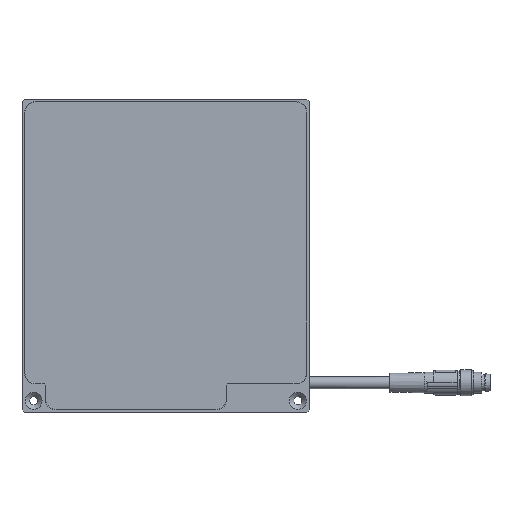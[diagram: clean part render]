
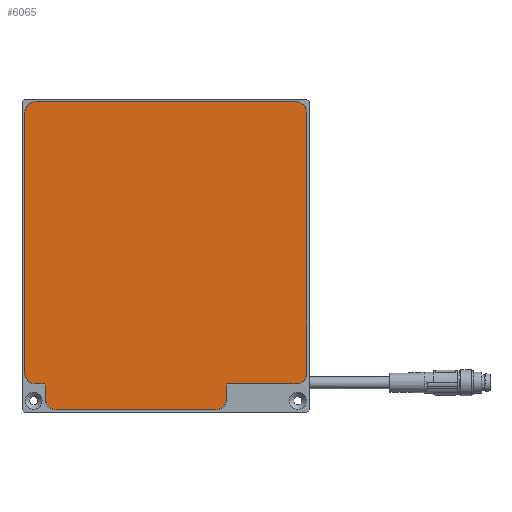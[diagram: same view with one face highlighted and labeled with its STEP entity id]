
A CAD part, top view. The second image highlights one B-rep face of the part: STEP entity #6065.
In plain terms, the highlighted planar face has unit normal (0, 0, 1).
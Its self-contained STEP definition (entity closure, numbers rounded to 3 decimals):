
#171=CIRCLE('',#8767,4.1);
#172=CIRCLE('',#8768,4.1);
#173=CIRCLE('',#8769,4.1);
#174=CIRCLE('',#8770,4.1);
#175=CIRCLE('',#8771,4.1);
#176=CIRCLE('',#8772,4.1);
#373=ORIENTED_EDGE('',*,*,#2121,.F.);
#374=ORIENTED_EDGE('',*,*,#2131,.T.);
#375=ORIENTED_EDGE('',*,*,#2117,.F.);
#376=ORIENTED_EDGE('',*,*,#2132,.T.);
#377=ORIENTED_EDGE('',*,*,#2107,.F.);
#378=ORIENTED_EDGE('',*,*,#2133,.T.);
#379=ORIENTED_EDGE('',*,*,#2106,.F.);
#380=ORIENTED_EDGE('',*,*,#2134,.T.);
#381=ORIENTED_EDGE('',*,*,#2102,.F.);
#382=ORIENTED_EDGE('',*,*,#2135,.T.);
#383=ORIENTED_EDGE('',*,*,#2098,.F.);
#384=ORIENTED_EDGE('',*,*,#2136,.T.);
#385=ORIENTED_EDGE('',*,*,#2130,.F.);
#386=ORIENTED_EDGE('',*,*,#2137,.T.);
#387=ORIENTED_EDGE('',*,*,#2122,.F.);
#388=ORIENTED_EDGE('',*,*,#2138,.T.);
#2098=EDGE_CURVE('',#2979,#2976,#3582,.T.);
#2102=EDGE_CURVE('',#2983,#2980,#3586,.T.);
#2106=EDGE_CURVE('',#2987,#2984,#3590,.T.);
#2107=EDGE_CURVE('',#2988,#2989,#3591,.T.);
#2117=EDGE_CURVE('',#2997,#2994,#3601,.T.);
#2121=EDGE_CURVE('',#3001,#2998,#3605,.T.);
#2122=EDGE_CURVE('',#3002,#3003,#3606,.T.);
#2130=EDGE_CURVE('',#3008,#3006,#3614,.T.);
#2131=EDGE_CURVE('',#3001,#2994,#171,.F.);
#2132=EDGE_CURVE('',#2997,#2989,#3615,.F.);
#2133=EDGE_CURVE('',#2988,#2984,#172,.F.);
#2134=EDGE_CURVE('',#2987,#2980,#173,.F.);
#2135=EDGE_CURVE('',#2983,#2976,#174,.F.);
#2136=EDGE_CURVE('',#2979,#3006,#175,.F.);
#2137=EDGE_CURVE('',#3008,#3003,#3616,.F.);
#2138=EDGE_CURVE('',#3002,#2998,#176,.F.);
#2976=VERTEX_POINT('',#10936);
#2979=VERTEX_POINT('',#10941);
#2980=VERTEX_POINT('',#10945);
#2983=VERTEX_POINT('',#10950);
#2984=VERTEX_POINT('',#10954);
#2987=VERTEX_POINT('',#10959);
#2988=VERTEX_POINT('',#10963);
#2989=VERTEX_POINT('',#10964);
#2994=VERTEX_POINT('',#10976);
#2997=VERTEX_POINT('',#10982);
#2998=VERTEX_POINT('',#10986);
#3001=VERTEX_POINT('',#10991);
#3002=VERTEX_POINT('',#10995);
#3003=VERTEX_POINT('',#10996);
#3006=VERTEX_POINT('',#11005);
#3008=VERTEX_POINT('',#11009);
#3582=LINE('',#10942,#4246);
#3586=LINE('',#10951,#4250);
#3590=LINE('',#10960,#4254);
#3591=LINE('',#10962,#4255);
#3601=LINE('',#10983,#4265);
#3605=LINE('',#10992,#4269);
#3606=LINE('',#10994,#4270);
#3614=LINE('',#11010,#4278);
#3615=LINE('',#11013,#4279);
#3616=LINE('',#11018,#4280);
#4246=VECTOR('',#9270,1000.);
#4250=VECTOR('',#9276,1000.);
#4254=VECTOR('',#9282,1000.);
#4255=VECTOR('',#9285,1000.);
#4265=VECTOR('',#9297,1000.);
#4269=VECTOR('',#9303,1000.);
#4270=VECTOR('',#9306,1000.);
#4278=VECTOR('',#9316,1000.);
#4279=VECTOR('',#9321,1000.);
#4280=VECTOR('',#9330,1000.);
#4913=EDGE_LOOP('',(#373,#374,#375,#376,#377,#378,#379,#380,#381,#382,#383,
#384,#385,#386,#387,#388));
#5359=FACE_BOUND('',#4913,.T.);
#5805=PLANE('',#8766);
#6065=ADVANCED_FACE('',(#5359),#5805,.F.);
#8766=AXIS2_PLACEMENT_3D('',#11011,#9317,#9318);
#8767=AXIS2_PLACEMENT_3D('',#11012,#9319,#9320);
#8768=AXIS2_PLACEMENT_3D('',#11014,#9322,#9323);
#8769=AXIS2_PLACEMENT_3D('',#11015,#9324,#9325);
#8770=AXIS2_PLACEMENT_3D('',#11016,#9326,#9327);
#8771=AXIS2_PLACEMENT_3D('',#11017,#9328,#9329);
#8772=AXIS2_PLACEMENT_3D('',#11019,#9331,#9332);
#9270=DIRECTION('',(0.,1.,0.));
#9276=DIRECTION('',(1.,0.,0.));
#9282=DIRECTION('',(0.,-1.,0.));
#9285=DIRECTION('',(-1.,0.,0.));
#9297=DIRECTION('',(0.,-1.,0.));
#9303=DIRECTION('',(-1.,0.,0.));
#9306=DIRECTION('',(0.,1.,0.));
#9316=DIRECTION('',(-1.,0.,0.));
#9317=DIRECTION('',(0.,0.,-1.));
#9318=DIRECTION('',(-1.,0.,0.));
#9319=DIRECTION('',(0.,0.,-1.));
#9320=DIRECTION('',(-1.,0.,0.));
#9321=DIRECTION('',(-0.707,-0.707,0.));
#9322=DIRECTION('',(0.,0.,-1.));
#9323=DIRECTION('',(-1.,0.,0.));
#9324=DIRECTION('',(0.,0.,-1.));
#9325=DIRECTION('',(-1.,0.,0.));
#9326=DIRECTION('',(0.,0.,-1.));
#9327=DIRECTION('',(-1.,0.,0.));
#9328=DIRECTION('',(0.,0.,-1.));
#9329=DIRECTION('',(-1.,0.,0.));
#9330=DIRECTION('',(-0.707,0.707,0.));
#9331=DIRECTION('',(0.,0.,-1.));
#9332=DIRECTION('',(-1.,0.,0.));
#10936=CARTESIAN_POINT('',(-54.4,50.3,0.1));
#10941=CARTESIAN_POINT('',(-54.4,-50.3,0.1));
#10942=CARTESIAN_POINT('',(-54.4,-54.4,0.1));
#10945=CARTESIAN_POINT('',(50.3,54.4,0.1));
#10950=CARTESIAN_POINT('',(-50.3,54.4,0.1));
#10951=CARTESIAN_POINT('',(-54.4,54.4,0.1));
#10954=CARTESIAN_POINT('',(54.4,-50.3,0.1));
#10959=CARTESIAN_POINT('',(54.4,50.3,0.1));
#10960=CARTESIAN_POINT('',(54.4,54.4,0.1));
#10962=CARTESIAN_POINT('',(23.4,-54.4,0.1));
#10963=CARTESIAN_POINT('',(50.3,-54.4,0.1));
#10964=CARTESIAN_POINT('',(23.9,-54.4,0.1));
#10976=CARTESIAN_POINT('',(23.4,-60.3,0.1));
#10982=CARTESIAN_POINT('',(23.4,-54.9,0.1));
#10983=CARTESIAN_POINT('',(23.4,-64.4,0.1));
#10986=CARTESIAN_POINT('',(-42.3,-64.4,0.1));
#10991=CARTESIAN_POINT('',(19.3,-64.4,0.1));
#10992=CARTESIAN_POINT('',(23.4,-64.4,0.1));
#10994=CARTESIAN_POINT('',(-46.4,-64.4,0.1));
#10995=CARTESIAN_POINT('',(-46.4,-60.3,0.1));
#10996=CARTESIAN_POINT('',(-46.4,-54.9,0.1));
#11005=CARTESIAN_POINT('',(-50.3,-54.4,0.1));
#11009=CARTESIAN_POINT('',(-46.9,-54.4,0.1));
#11010=CARTESIAN_POINT('',(-46.4,-54.4,0.1));
#11011=CARTESIAN_POINT('',(0.1,0.1,0.1));
#11012=CARTESIAN_POINT('',(19.3,-60.3,0.1));
#11013=CARTESIAN_POINT('',(39.25,-39.05,0.1));
#11014=CARTESIAN_POINT('',(50.3,-50.3,0.1));
#11015=CARTESIAN_POINT('',(50.3,50.3,0.1));
#11016=CARTESIAN_POINT('',(-50.3,50.3,0.1));
#11017=CARTESIAN_POINT('',(-50.3,-50.3,0.1));
#11018=CARTESIAN_POINT('',(-50.65,-50.65,0.1));
#11019=CARTESIAN_POINT('',(-42.3,-60.3,0.1));
